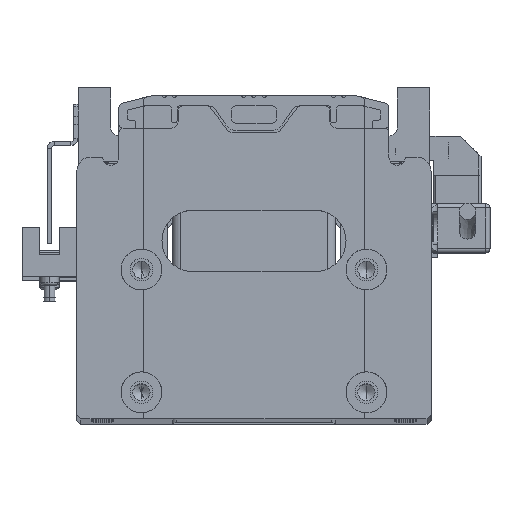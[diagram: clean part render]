
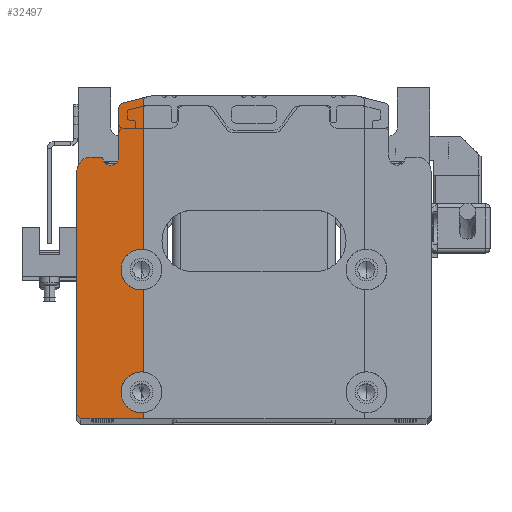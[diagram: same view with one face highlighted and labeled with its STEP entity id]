
A CAD part, top view. The second image highlights one B-rep face of the part: STEP entity #32497.
In plain terms, the highlighted planar face has unit normal (0, 0, 1).
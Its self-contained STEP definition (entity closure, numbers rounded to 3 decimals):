
#115 = DIRECTION ( 'NONE',  ( 1., 0., 0. ) ) ;
#332 = ORIENTED_EDGE ( 'NONE', *, *, #33435, .T. ) ;
#373 = EDGE_CURVE ( 'NONE', #33503, #3643, #4612, .T. ) ;
#574 = ORIENTED_EDGE ( 'NONE', *, *, #28519, .T. ) ;
#796 = VERTEX_POINT ( 'NONE', #15961 ) ;
#895 = CARTESIAN_POINT ( 'NONE',  ( -32.5, -3., 12.5 ) ) ;
#898 = CARTESIAN_POINT ( 'NONE',  ( -33., 0., 12.5 ) ) ;
#900 = VECTOR ( 'NONE', #44761, 1000. ) ;
#1102 = LINE ( 'NONE', #41134, #29423 ) ;
#1753 = VERTEX_POINT ( 'NONE', #6504 ) ;
#2026 = DIRECTION ( 'NONE',  ( 1., 0., 0. ) ) ;
#2349 = EDGE_LOOP ( 'NONE', ( #332, #28748, #26186, #40363, #14913, #22823, #9164, #13651, #34334, #26153, #43338, #39320, #25595, #7059, #35276, #574, #11195 ) ) ;
#2922 = CARTESIAN_POINT ( 'NONE',  ( -39.8, 24.5, 12.5 ) ) ;
#3257 = DIRECTION ( 'NONE',  ( 0., 0., -1. ) ) ;
#3294 = DIRECTION ( 'NONE',  ( 0., 0., 1. ) ) ;
#3409 = EDGE_CURVE ( 'NONE', #39324, #40000, #22684, .T. ) ;
#3643 = VERTEX_POINT ( 'NONE', #24058 ) ;
#3767 = CARTESIAN_POINT ( 'NONE',  ( -27.5, -33., 12.5 ) ) ;
#3947 = CARTESIAN_POINT ( 'NONE',  ( -26.243, 39.189, 12.5 ) ) ;
#4388 = CARTESIAN_POINT ( 'NONE',  ( -27., -7.975, 12.5 ) ) ;
#4612 = LINE ( 'NONE', #27700, #41936 ) ;
#4662 = DIRECTION ( 'NONE',  ( 1., 0., 0. ) ) ;
#4972 = CARTESIAN_POINT ( 'NONE',  ( -27., -37.975, 12.5 ) ) ;
#6011 = VECTOR ( 'NONE', #40929, 1000. ) ;
#6071 = CARTESIAN_POINT ( 'NONE',  ( -27., -28.025, 12.5 ) ) ;
#6472 = CARTESIAN_POINT ( 'NONE',  ( -27.5, -3., 12.5 ) ) ;
#6504 = CARTESIAN_POINT ( 'NONE',  ( -33., 36.719, 12.5 ) ) ;
#6558 = CARTESIAN_POINT ( 'NONE',  ( -10.765, 43.059, 12.5 ) ) ;
#6603 = CARTESIAN_POINT ( 'NONE',  ( -43.3, 21., 12.5 ) ) ;
#7059 = ORIENTED_EDGE ( 'NONE', *, *, #13569, .F. ) ;
#7603 = VERTEX_POINT ( 'NONE', #39761 ) ;
#7845 = DIRECTION ( 'NONE',  ( 1., 0., 0. ) ) ;
#8259 = VERTEX_POINT ( 'NONE', #4388 ) ;
#8392 = EDGE_CURVE ( 'NONE', #39854, #1753, #20825, .T. ) ;
#8412 = LINE ( 'NONE', #10110, #40385 ) ;
#8720 = VERTEX_POINT ( 'NONE', #34551 ) ;
#9164 = ORIENTED_EDGE ( 'NONE', *, *, #28310, .T. ) ;
#9333 = CARTESIAN_POINT ( 'NONE',  ( -42.3, -39.5, 12.5 ) ) ;
#9652 = CARTESIAN_POINT ( 'NONE',  ( 0., 0., 12.5 ) ) ;
#9684 = EDGE_CURVE ( 'NONE', #7603, #1753, #38701, .T. ) ;
#10110 = CARTESIAN_POINT ( 'NONE',  ( -43.3, 39.5, 12.5 ) ) ;
#10683 = DIRECTION ( 'NONE',  ( 1., 0., 0. ) ) ;
#11195 = ORIENTED_EDGE ( 'NONE', *, *, #39026, .T. ) ;
#11408 = EDGE_CURVE ( 'NONE', #43149, #18672, #1102, .T. ) ;
#11644 = VECTOR ( 'NONE', #38893, 1000. ) ;
#12492 = CARTESIAN_POINT ( 'NONE',  ( -27.5, -33., 12.5 ) ) ;
#12768 = AXIS2_PLACEMENT_3D ( 'NONE', #9652, #19684, #19827 ) ;
#13569 = EDGE_CURVE ( 'NONE', #37196, #8259, #16566, .T. ) ;
#13651 = ORIENTED_EDGE ( 'NONE', *, *, #11408, .T. ) ;
#14046 = CARTESIAN_POINT ( 'NONE',  ( -27., 39.5, 12.5 ) ) ;
#14713 = EDGE_CURVE ( 'NONE', #33503, #23016, #20885, .T. ) ;
#14913 = ORIENTED_EDGE ( 'NONE', *, *, #373, .F. ) ;
#15398 = CARTESIAN_POINT ( 'NONE',  ( -35., 24.5, 12.5 ) ) ;
#15961 = CARTESIAN_POINT ( 'NONE',  ( -32.5, -33., 12.5 ) ) ;
#16127 = AXIS2_PLACEMENT_3D ( 'NONE', #6472, #3294, #17252 ) ;
#16561 = CARTESIAN_POINT ( 'NONE',  ( -43.3, -38.5, 12.5 ) ) ;
#16566 = CIRCLE ( 'NONE', #22679, 5. ) ;
#17252 = DIRECTION ( 'NONE',  ( 1., 0., 0. ) ) ;
#18636 = AXIS2_PLACEMENT_3D ( 'NONE', #27953, #20685, #38407 ) ;
#18672 = VERTEX_POINT ( 'NONE', #9333 ) ;
#18904 = DIRECTION ( 'NONE',  ( 1., 0., 0. ) ) ;
#19583 = VERTEX_POINT ( 'NONE', #6071 ) ;
#19620 = AXIS2_PLACEMENT_3D ( 'NONE', #34996, #31949, #7845 ) ;
#19635 = DIRECTION ( 'NONE',  ( 0., 0., 1. ) ) ;
#19684 = DIRECTION ( 'NONE',  ( 0., 0., 1. ) ) ;
#19827 = DIRECTION ( 'NONE',  ( 1., 0., 0. ) ) ;
#20444 = DIRECTION ( 'NONE',  ( 0.707, -0.707, 0. ) ) ;
#20685 = DIRECTION ( 'NONE',  ( 0., 0., 1. ) ) ;
#20825 = LINE ( 'NONE', #898, #43540 ) ;
#20885 = CIRCLE ( 'NONE', #18636, 3.5 ) ;
#21845 = EDGE_CURVE ( 'NONE', #796, #40000, #31006, .T. ) ;
#22146 = DIRECTION ( 'NONE',  ( 0., 1., 0. ) ) ;
#22438 = CIRCLE ( 'NONE', #36866, 5. ) ;
#22679 = AXIS2_PLACEMENT_3D ( 'NONE', #24533, #31400, #115 ) ;
#22684 = LINE ( 'NONE', #38079, #35702 ) ;
#22823 = ORIENTED_EDGE ( 'NONE', *, *, #14713, .T. ) ;
#22916 = AXIS2_PLACEMENT_3D ( 'NONE', #12492, #19635, #2026 ) ;
#23016 = VERTEX_POINT ( 'NONE', #6603 ) ;
#24058 = CARTESIAN_POINT ( 'NONE',  ( -37., 24.5, 12.5 ) ) ;
#24337 = DIRECTION ( 'NONE',  ( 0., -1., 0. ) ) ;
#24533 = CARTESIAN_POINT ( 'NONE',  ( -27.5, -3., 12.5 ) ) ;
#25595 = ORIENTED_EDGE ( 'NONE', *, *, #44737, .T. ) ;
#26028 = EDGE_CURVE ( 'NONE', #3643, #39854, #36340, .T. ) ;
#26153 = ORIENTED_EDGE ( 'NONE', *, *, #3409, .T. ) ;
#26186 = ORIENTED_EDGE ( 'NONE', *, *, #8392, .F. ) ;
#27245 = FACE_OUTER_BOUND ( 'NONE', #2349, .T. ) ;
#27555 = DIRECTION ( 'NONE',  ( 1., 0., 0. ) ) ;
#27568 = AXIS2_PLACEMENT_3D ( 'NONE', #34355, #3257, #27555 ) ;
#27700 = CARTESIAN_POINT ( 'NONE',  ( 0., 24.5, 12.5 ) ) ;
#27953 = CARTESIAN_POINT ( 'NONE',  ( -39.8, 21., 12.5 ) ) ;
#28142 = LINE ( 'NONE', #36336, #29282 ) ;
#28152 = CARTESIAN_POINT ( 'NONE',  ( -27., 39.5, 12.5 ) ) ;
#28310 = EDGE_CURVE ( 'NONE', #23016, #43149, #8412, .T. ) ;
#28519 = EDGE_CURVE ( 'NONE', #8720, #32817, #32824, .T. ) ;
#28748 = ORIENTED_EDGE ( 'NONE', *, *, #9684, .T. ) ;
#29282 = VECTOR ( 'NONE', #18904, 1000. ) ;
#29423 = VECTOR ( 'NONE', #20444, 1000. ) ;
#31006 = CIRCLE ( 'NONE', #22916, 5. ) ;
#31400 = DIRECTION ( 'NONE',  ( 0., 0., 1. ) ) ;
#31474 = EDGE_CURVE ( 'NONE', #19583, #796, #22438, .T. ) ;
#31949 = DIRECTION ( 'NONE',  ( 0., 0., 1. ) ) ;
#32497 = ADVANCED_FACE ( 'NONE', ( #27245 ), #40252, .T. ) ;
#32817 = VERTEX_POINT ( 'NONE', #39482 ) ;
#32824 = LINE ( 'NONE', #28152, #11644 ) ;
#33435 = EDGE_CURVE ( 'NONE', #33613, #7603, #44401, .T. ) ;
#33503 = VERTEX_POINT ( 'NONE', #2922 ) ;
#33613 = VERTEX_POINT ( 'NONE', #3947 ) ;
#34334 = ORIENTED_EDGE ( 'NONE', *, *, #43085, .T. ) ;
#34355 = CARTESIAN_POINT ( 'NONE',  ( -26., 38.219, 12.5 ) ) ;
#34551 = CARTESIAN_POINT ( 'NONE',  ( -27., 1.975, 12.5 ) ) ;
#34871 = DIRECTION ( 'NONE',  ( 0., 0., 1. ) ) ;
#34996 = CARTESIAN_POINT ( 'NONE',  ( -32., 36.719, 12.5 ) ) ;
#35160 = CARTESIAN_POINT ( 'NONE',  ( -33., 24.5, 12.5 ) ) ;
#35276 = ORIENTED_EDGE ( 'NONE', *, *, #36224, .F. ) ;
#35702 = VECTOR ( 'NONE', #41476, 1000. ) ;
#35870 = CARTESIAN_POINT ( 'NONE',  ( -27., -39.5, 12.5 ) ) ;
#36224 = EDGE_CURVE ( 'NONE', #8720, #37196, #40833, .T. ) ;
#36336 = CARTESIAN_POINT ( 'NONE',  ( -43.3, -39.5, 12.5 ) ) ;
#36340 = CIRCLE ( 'NONE', #42134, 2. ) ;
#36847 = CIRCLE ( 'NONE', #27568, 1. ) ;
#36866 = AXIS2_PLACEMENT_3D ( 'NONE', #3767, #34871, #42969 ) ;
#37196 = VERTEX_POINT ( 'NONE', #895 ) ;
#38079 = CARTESIAN_POINT ( 'NONE',  ( -27., 39.5, 12.5 ) ) ;
#38407 = DIRECTION ( 'NONE',  ( 1., 0., 0. ) ) ;
#38701 = CIRCLE ( 'NONE', #19620, 1. ) ;
#38882 = LINE ( 'NONE', #14046, #900 ) ;
#38893 = DIRECTION ( 'NONE',  ( 0., 1., 0. ) ) ;
#39026 = EDGE_CURVE ( 'NONE', #32817, #33613, #36847, .T. ) ;
#39192 = DIRECTION ( 'NONE',  ( 0., 0., 1. ) ) ;
#39320 = ORIENTED_EDGE ( 'NONE', *, *, #31474, .F. ) ;
#39324 = VERTEX_POINT ( 'NONE', #35870 ) ;
#39482 = CARTESIAN_POINT ( 'NONE',  ( -27., 38.219, 12.5 ) ) ;
#39761 = CARTESIAN_POINT ( 'NONE',  ( -32.243, 37.689, 12.5 ) ) ;
#39854 = VERTEX_POINT ( 'NONE', #35160 ) ;
#40000 = VERTEX_POINT ( 'NONE', #4972 ) ;
#40252 = PLANE ( 'NONE',  #12768 ) ;
#40363 = ORIENTED_EDGE ( 'NONE', *, *, #26028, .F. ) ;
#40385 = VECTOR ( 'NONE', #24337, 1000. ) ;
#40833 = CIRCLE ( 'NONE', #16127, 5. ) ;
#40929 = DIRECTION ( 'NONE',  ( -0.97, -0.243, 0. ) ) ;
#41134 = CARTESIAN_POINT ( 'NONE',  ( -40.9, -40.9, 12.5 ) ) ;
#41476 = DIRECTION ( 'NONE',  ( 0., 1., 0. ) ) ;
#41936 = VECTOR ( 'NONE', #10683, 1000. ) ;
#42134 = AXIS2_PLACEMENT_3D ( 'NONE', #15398, #39192, #4662 ) ;
#42969 = DIRECTION ( 'NONE',  ( 1., 0., 0. ) ) ;
#43085 = EDGE_CURVE ( 'NONE', #18672, #39324, #28142, .T. ) ;
#43149 = VERTEX_POINT ( 'NONE', #16561 ) ;
#43338 = ORIENTED_EDGE ( 'NONE', *, *, #21845, .F. ) ;
#43540 = VECTOR ( 'NONE', #22146, 1000. ) ;
#44401 = LINE ( 'NONE', #6558, #6011 ) ;
#44737 = EDGE_CURVE ( 'NONE', #19583, #8259, #38882, .T. ) ;
#44761 = DIRECTION ( 'NONE',  ( 0., 1., 0. ) ) ;
